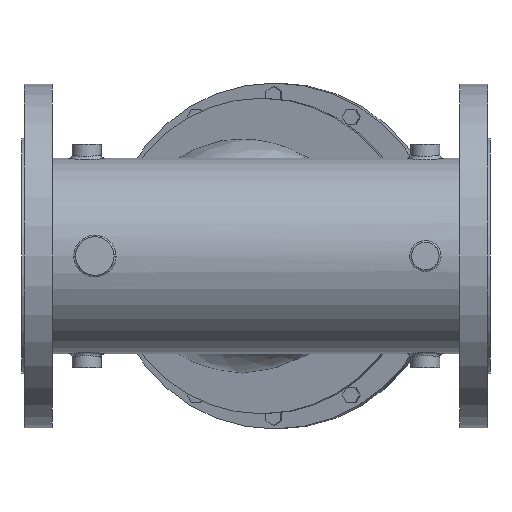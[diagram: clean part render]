
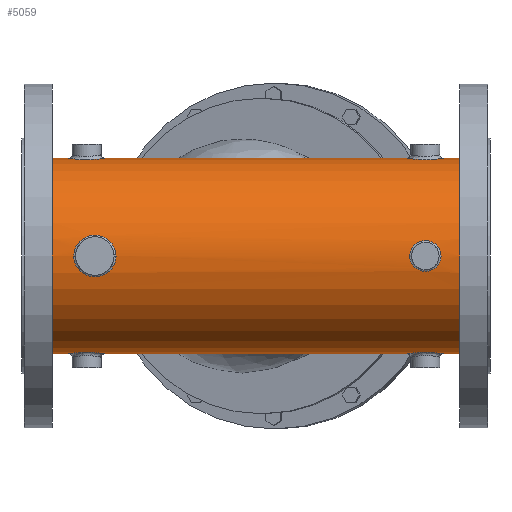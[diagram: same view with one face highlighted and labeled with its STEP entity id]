
A CAD part, front view. The second image highlights one B-rep face of the part: STEP entity #5059.
In plain terms, the highlighted cylindrical face has radius 90.487 mm (diameter 180.975 mm), a full revolution.
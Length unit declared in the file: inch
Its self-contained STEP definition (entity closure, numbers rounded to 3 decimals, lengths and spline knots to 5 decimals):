
#359=FACE_OUTER_BOUND('',#630,.T.);
#630=EDGE_LOOP('',(#3352,#3353,#3354,#3355,#3356,#3357,#3358,#3359,#3360,
#3361,#3362,#3363,#3364,#3365,#3366));
#981=B_SPLINE_CURVE_WITH_KNOTS('',3,(#7047,#7048,#7049,#7050,#7051,#7052,
#7053,#7054,#7055,#7056,#7057,#7058),.UNSPECIFIED.,.F.,.F.,(4,1,1,1,1,1,
1,1,1,4),(-8.05958,-7.93165,-7.67579,-6.65235,
-6.14063,-5.1172,-4.60548,-3.58204,
-3.07032,-2.68653),.UNSPECIFIED.);
#982=B_SPLINE_CURVE_WITH_KNOTS('',3,(#7062,#7063,#7064,#7065,#7066,#7067,
#7068,#7069,#7070,#7071,#7072),.UNSPECIFIED.,.F.,.F.,(4,1,1,1,1,1,1,1,4),
(-5.74885,-5.47511,-4.74509,-4.38009,
-3.65007,-3.28506,-2.55505,-2.19004,
-1.91628),.UNSPECIFIED.);
#983=B_SPLINE_CURVE_WITH_KNOTS('',3,(#7079,#7080,#7081,#7082,#7083,#7084,
#7085),.UNSPECIFIED.,.F.,.F.,(4,1,1,1,4),(-7.66515,-7.11764,
-6.57013,-6.02262,-5.74885),.UNSPECIFIED.);
#984=B_SPLINE_CURVE_WITH_KNOTS('',3,(#7086,#7087,#7088,#7089,#7090,#7091,
#7092),.UNSPECIFIED.,.F.,.F.,(4,1,1,1,4),(-1.91628,-1.46003,
-1.09502,-0.54751,0.),.UNSPECIFIED.);
#1040=CIRCLE('',#5352,3.5625);
#1041=CIRCLE('',#5353,3.5625);
#1042=CIRCLE('',#5354,3.5625);
#1043=CIRCLE('',#5355,3.5625);
#1163=LINE('',#7041,#1674);
#1164=LINE('',#7043,#1675);
#1165=LINE('',#7060,#1676);
#1166=LINE('',#7074,#1677);
#1674=VECTOR('',#5746,3.5625);
#1675=VECTOR('',#5747,3.5625);
#1676=VECTOR('',#5752,3.5625);
#1677=VECTOR('',#5753,3.5625);
#2185=VERTEX_POINT('',#7039);
#2186=VERTEX_POINT('',#7040);
#2187=VERTEX_POINT('',#7042);
#2188=VERTEX_POINT('',#7044);
#2189=VERTEX_POINT('',#7059);
#2190=VERTEX_POINT('',#7061);
#2191=VERTEX_POINT('',#7073);
#2192=VERTEX_POINT('',#7075);
#2193=VERTEX_POINT('',#7078);
#2656=EDGE_CURVE('',#2185,#2186,#1163,.T.);
#2657=EDGE_CURVE('',#2185,#2187,#1164,.T.);
#2658=EDGE_CURVE('',#2187,#2188,#1040,.T.);
#2659=EDGE_CURVE('',#2188,#2187,#1041,.T.);
#2660=EDGE_CURVE('',#2186,#2185,#981,.T.);
#2661=EDGE_CURVE('',#2189,#2186,#1165,.T.);
#2662=EDGE_CURVE('',#2190,#2189,#982,.T.);
#2663=EDGE_CURVE('',#2191,#2190,#1166,.T.);
#2664=EDGE_CURVE('',#2192,#2191,#1042,.T.);
#2665=EDGE_CURVE('',#2191,#2192,#1043,.T.);
#2666=EDGE_CURVE('',#2193,#2190,#983,.T.);
#2667=EDGE_CURVE('',#2189,#2193,#984,.T.);
#3352=ORIENTED_EDGE('',*,*,#2656,.F.);
#3353=ORIENTED_EDGE('',*,*,#2657,.T.);
#3354=ORIENTED_EDGE('',*,*,#2658,.T.);
#3355=ORIENTED_EDGE('',*,*,#2659,.T.);
#3356=ORIENTED_EDGE('',*,*,#2657,.F.);
#3357=ORIENTED_EDGE('',*,*,#2660,.F.);
#3358=ORIENTED_EDGE('',*,*,#2661,.F.);
#3359=ORIENTED_EDGE('',*,*,#2662,.F.);
#3360=ORIENTED_EDGE('',*,*,#2663,.F.);
#3361=ORIENTED_EDGE('',*,*,#2664,.F.);
#3362=ORIENTED_EDGE('',*,*,#2665,.F.);
#3363=ORIENTED_EDGE('',*,*,#2663,.T.);
#3364=ORIENTED_EDGE('',*,*,#2666,.F.);
#3365=ORIENTED_EDGE('',*,*,#2667,.F.);
#3366=ORIENTED_EDGE('',*,*,#2661,.T.);
#4744=CYLINDRICAL_SURFACE('',#5351,3.5625);
#5059=ADVANCED_FACE('',(#359),#4744,.T.);
#5351=AXIS2_PLACEMENT_3D('',#7038,#5744,#5745);
#5352=AXIS2_PLACEMENT_3D('',#7045,#5748,#5749);
#5353=AXIS2_PLACEMENT_3D('',#7046,#5750,#5751);
#5354=AXIS2_PLACEMENT_3D('',#7076,#5754,#5755);
#5355=AXIS2_PLACEMENT_3D('',#7077,#5756,#5757);
#5744=DIRECTION('center_axis',(1.,0.,0.));
#5745=DIRECTION('ref_axis',(0.,1.,0.));
#5746=DIRECTION('',(1.,0.,0.));
#5747=DIRECTION('',(-1.,0.,0.));
#5748=DIRECTION('center_axis',(1.,0.,0.));
#5749=DIRECTION('ref_axis',(0.,0.,-1.));
#5750=DIRECTION('center_axis',(1.,0.,0.));
#5751=DIRECTION('ref_axis',(0.,0.,-1.));
#5752=DIRECTION('',(-1.,0.,0.));
#5753=DIRECTION('',(-1.,0.,0.));
#5754=DIRECTION('center_axis',(1.,0.,0.));
#5755=DIRECTION('ref_axis',(0.,0.,-1.));
#5756=DIRECTION('center_axis',(1.,0.,0.));
#5757=DIRECTION('ref_axis',(0.,0.,-1.));
#7038=CARTESIAN_POINT('Origin',(0.,0.,0.));
#7039=CARTESIAN_POINT('',(-6.64,-3.5625,0.));
#7040=CARTESIAN_POINT('',(-5.1,-3.5625,0.));
#7041=CARTESIAN_POINT('',(0.,-3.5625,0.));
#7042=CARTESIAN_POINT('',(-7.425,-3.5625,0.));
#7043=CARTESIAN_POINT('',(0.,-3.5625,0.));
#7044=CARTESIAN_POINT('',(-7.425,3.5625,0.));
#7045=CARTESIAN_POINT('Origin',(-7.425,0.,0.));
#7046=CARTESIAN_POINT('Origin',(-7.425,0.,0.));
#7047=CARTESIAN_POINT('Ctrl Pts',(-5.09992,-3.56255,-0.00002));
#7048=CARTESIAN_POINT('Ctrl Pts',(-5.09994,-3.56254,0.01888));
#7049=CARTESIAN_POINT('Ctrl Pts',(-5.10216,-3.56204,0.07558));
#7050=CARTESIAN_POINT('Ctrl Pts',(-5.13348,-3.55564,0.28175));
#7051=CARTESIAN_POINT('Ctrl Pts',(-5.27431,-3.52725,0.51886));
#7052=CARTESIAN_POINT('Ctrl Pts',(-5.59425,-3.48712,0.73357));
#7053=CARTESIAN_POINT('Ctrl Pts',(-5.9123,-3.47567,0.78104));
#7054=CARTESIAN_POINT('Ctrl Pts',(-6.28448,-3.50051,0.66776));
#7055=CARTESIAN_POINT('Ctrl Pts',(-6.51815,-3.5378,0.45494));
#7056=CARTESIAN_POINT('Ctrl Pts',(-6.6249,-3.55944,0.18879));
#7057=CARTESIAN_POINT('Ctrl Pts',(-6.63988,-3.56245,0.05659));
#7058=CARTESIAN_POINT('Ctrl Pts',(-6.63988,-3.56245,-0.00006));
#7059=CARTESIAN_POINT('',(5.6,-3.5625,0.));
#7060=CARTESIAN_POINT('',(0.,-3.5625,0.));
#7061=CARTESIAN_POINT('',(6.74,-3.5625,0.));
#7062=CARTESIAN_POINT('Ctrl Pts',(6.73999,-3.56248,0.00006));
#7063=CARTESIAN_POINT('Ctrl Pts',(6.74002,-3.56248,0.04197));
#7064=CARTESIAN_POINT('Ctrl Pts',(6.72268,-3.55989,0.19563));
#7065=CARTESIAN_POINT('Ctrl Pts',(6.61121,-3.54322,0.38426));
#7066=CARTESIAN_POINT('Ctrl Pts',(6.37379,-3.5213,0.54324));
#7067=CARTESIAN_POINT('Ctrl Pts',(6.13878,-3.51529,0.57794));
#7068=CARTESIAN_POINT('Ctrl Pts',(5.86343,-3.52862,0.49446));
#7069=CARTESIAN_POINT('Ctrl Pts',(5.69004,-3.54895,0.33671));
#7070=CARTESIAN_POINT('Ctrl Pts',(5.61092,-3.56095,0.13953));
#7071=CARTESIAN_POINT('Ctrl Pts',(5.60012,-3.56246,0.04183));
#7072=CARTESIAN_POINT('Ctrl Pts',(5.6002,-3.56242,-0.00003));
#7073=CARTESIAN_POINT('',(7.425,-3.5625,0.));
#7074=CARTESIAN_POINT('',(0.,-3.5625,0.));
#7075=CARTESIAN_POINT('',(7.425,3.5625,0.));
#7076=CARTESIAN_POINT('Origin',(7.425,0.,0.));
#7077=CARTESIAN_POINT('Origin',(7.425,0.,0.));
#7078=CARTESIAN_POINT('',(6.17,-3.51837,-0.55902));
#7079=CARTESIAN_POINT('Ctrl Pts',(6.17,-3.51837,-0.55902));
#7080=CARTESIAN_POINT('Ctrl Pts',(6.2554,-3.51837,-0.55902));
#7081=CARTESIAN_POINT('Ctrl Pts',(6.42605,-3.52476,-0.52071));
#7082=CARTESIAN_POINT('Ctrl Pts',(6.63074,-3.54612,-0.36046));
#7083=CARTESIAN_POINT('Ctrl Pts',(6.7256,-3.56032,-0.16764));
#7084=CARTESIAN_POINT('Ctrl Pts',(6.73997,-3.56247,-0.04186));
#7085=CARTESIAN_POINT('Ctrl Pts',(6.73999,-3.56248,0.00006));
#7086=CARTESIAN_POINT('Ctrl Pts',(5.6002,-3.56242,-0.00003));
#7087=CARTESIAN_POINT('Ctrl Pts',(5.60033,-3.56234,-0.0698));
#7088=CARTESIAN_POINT('Ctrl Pts',(5.62413,-3.55872,-0.19535));
#7089=CARTESIAN_POINT('Ctrl Pts',(5.73227,-3.54365,-0.37828));
#7090=CARTESIAN_POINT('Ctrl Pts',(5.91379,-3.52483,-0.5207));
#7091=CARTESIAN_POINT('Ctrl Pts',(6.0846,-3.51837,-0.55902));
#7092=CARTESIAN_POINT('Ctrl Pts',(6.17,-3.51837,-0.55902));
